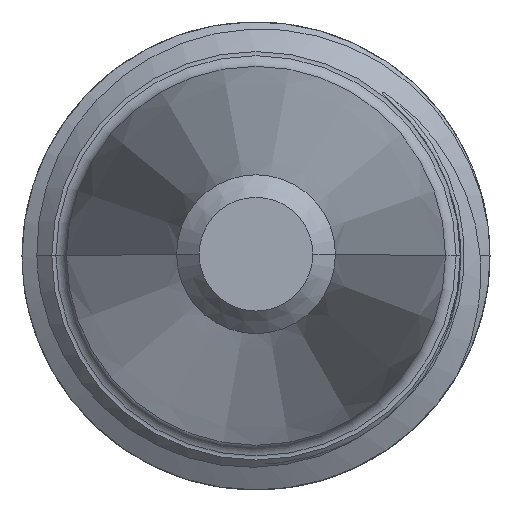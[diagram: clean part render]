
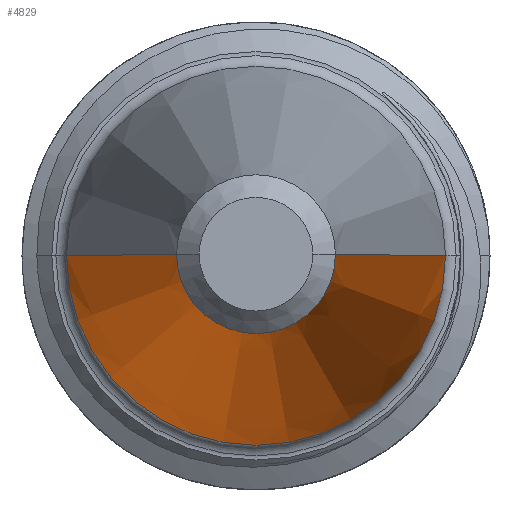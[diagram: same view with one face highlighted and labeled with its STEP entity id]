
A CAD part, top view. The second image highlights one B-rep face of the part: STEP entity #4829.
In plain terms, the highlighted conical face has half-angle 7 degrees and reference radius 4.859 mm.
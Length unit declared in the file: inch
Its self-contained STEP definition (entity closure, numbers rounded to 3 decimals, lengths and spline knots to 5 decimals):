
#19 = DIRECTION ( 'NONE',  ( 0., 0., 1. ) ) ;
#319 = CARTESIAN_POINT ( 'NONE',  ( 0.1913, 0., 0.20412 ) ) ;
#1056 = FACE_OUTER_BOUND ( 'NONE', #13489, .T. ) ;
#2722 = EDGE_CURVE ( 'NONE', #5721, #12863, #4165, .T. ) ;
#2888 = DIRECTION ( 'NONE',  ( -0.122, 0., -0.993 ) ) ;
#2921 = CARTESIAN_POINT ( 'NONE',  ( 0., 0., 0.20412 ) ) ;
#2927 = ORIENTED_EDGE ( 'NONE', *, *, #14747, .F. ) ;
#3201 = LINE ( 'NONE', #15544, #7182 ) ;
#3304 = DIRECTION ( 'NONE',  ( 0.122, 0., -0.993 ) ) ;
#4165 = CIRCLE ( 'NONE', #7038, 0.1913 ) ;
#4663 = VERTEX_POINT ( 'NONE', #15609 ) ;
#4829 = ADVANCED_FACE ( 'NONE', ( #1056 ), #17300, .T. ) ;
#5082 = CARTESIAN_POINT ( 'NONE',  ( -0.08018, 0., 1.10909 ) ) ;
#5721 = VERTEX_POINT ( 'NONE', #19661 ) ;
#5963 = DIRECTION ( 'NONE',  ( 0., 0., -1. ) ) ;
#6988 = ORIENTED_EDGE ( 'NONE', *, *, #16217, .F. ) ;
#7038 = AXIS2_PLACEMENT_3D ( 'NONE', #2921, #19, #16654 ) ;
#7173 = CARTESIAN_POINT ( 'NONE',  ( 0., 0., 0.20412 ) ) ;
#7182 = VECTOR ( 'NONE', #3304, 39.37008 ) ;
#7329 = VERTEX_POINT ( 'NONE', #5082 ) ;
#7965 = DIRECTION ( 'NONE',  ( 1., 0., 0. ) ) ;
#8162 = CARTESIAN_POINT ( 'NONE',  ( 0., 0., 1.10909 ) ) ;
#8670 = AXIS2_PLACEMENT_3D ( 'NONE', #7173, #5963, #12083 ) ;
#8827 = LINE ( 'NONE', #13724, #10274 ) ;
#9981 = ORIENTED_EDGE ( 'NONE', *, *, #2722, .T. ) ;
#10274 = VECTOR ( 'NONE', #2888, 39.37008 ) ;
#10468 = EDGE_CURVE ( 'NONE', #7329, #5721, #8827, .T. ) ;
#10727 = CIRCLE ( 'NONE', #13289, 0.08018 ) ;
#12083 = DIRECTION ( 'NONE',  ( -1., 0., 0. ) ) ;
#12863 = VERTEX_POINT ( 'NONE', #319 ) ;
#13289 = AXIS2_PLACEMENT_3D ( 'NONE', #8162, #17278, #7965 ) ;
#13489 = EDGE_LOOP ( 'NONE', ( #6988, #2927, #17492, #9981 ) ) ;
#13724 = CARTESIAN_POINT ( 'NONE',  ( -0.1913, 0., 0.20412 ) ) ;
#14747 = EDGE_CURVE ( 'NONE', #7329, #4663, #10727, .T. ) ;
#15544 = CARTESIAN_POINT ( 'NONE',  ( 0.1913, 0., 0.20412 ) ) ;
#15609 = CARTESIAN_POINT ( 'NONE',  ( 0.08018, 0., 1.10909 ) ) ;
#16217 = EDGE_CURVE ( 'NONE', #4663, #12863, #3201, .T. ) ;
#16654 = DIRECTION ( 'NONE',  ( 1., 0., 0. ) ) ;
#17278 = DIRECTION ( 'NONE',  ( 0., 0., 1. ) ) ;
#17300 = CONICAL_SURFACE ( 'NONE', #8670, 0.1913, 0.122 ) ;
#17492 = ORIENTED_EDGE ( 'NONE', *, *, #10468, .T. ) ;
#19661 = CARTESIAN_POINT ( 'NONE',  ( -0.1913, 0., 0.20412 ) ) ;
